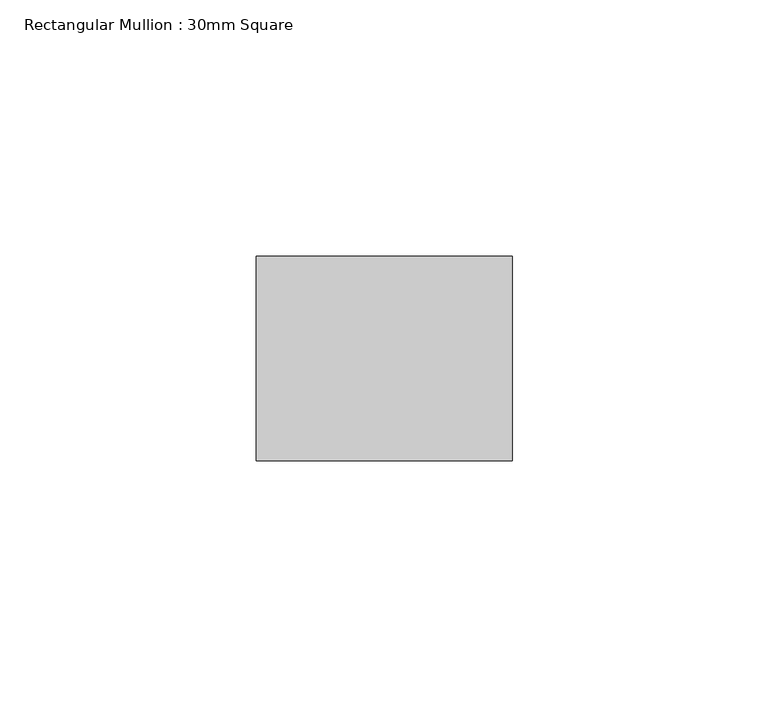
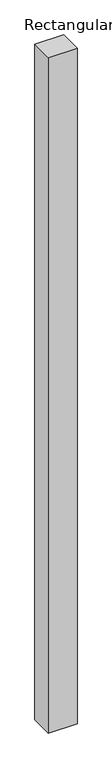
"""IFC4 building model written with IfcOpenShell, lengths in millimetres: member geometry, Rectangular Mullion : 30mm Square."""

from ifc_helpers import new_model, si_unit, frame, origin, place, context, project, spatial, polyline, outline, extrude, source, transform, mapped, element, save


def rectangular_mullion_30mm_square_96682497(model_context):
    return source(origin(), model_context, "Body", "SweptSolid", [
        extrude(outline(polyline([(0.0, 20.0), (0.0, -20.0), (-50.0, -20.0), (-50.0, 20.0), (0.0, 20.0)])), frame((0.0, 0.0, -1240.0), z_axis=(0.0, 0.0, 1.0), x_axis=(1.0, 0.0, 0.0)), (0.0, 0.0, 1.0), 1240.0),
    ])


if __name__ == "__main__":
    model = new_model("IFC4")
    model_context = context("Model", 3, world=origin())
    ifc_project = project(units=[si_unit("LENGTHUNIT", "METRE", prefix="MILLI")], contexts=[model_context])
    site = spatial("IfcSite", under=ifc_project)
    building = spatial("IfcBuilding", under=site)
    placement = place(None, origin())
    rectangular_mullion_30mm_square_shape = rectangular_mullion_30mm_square_96682497(model_context)
    element("IfcMember", 1, ObjectType="Rectangular Mullion : 30mm Square", at=placement, inside=building, context=model_context, shape_type="MappedRepresentation", body=[
        mapped(rectangular_mullion_30mm_square_shape, transform((0.0, 0.0, 0.0), x_axis=(1.0, 0.0, 0.0), y_axis=(0.0, 1.0, 0.0), z_axis=(0.0, 0.0, 1.0))),
    ])
    save(model, "model.ifc")
